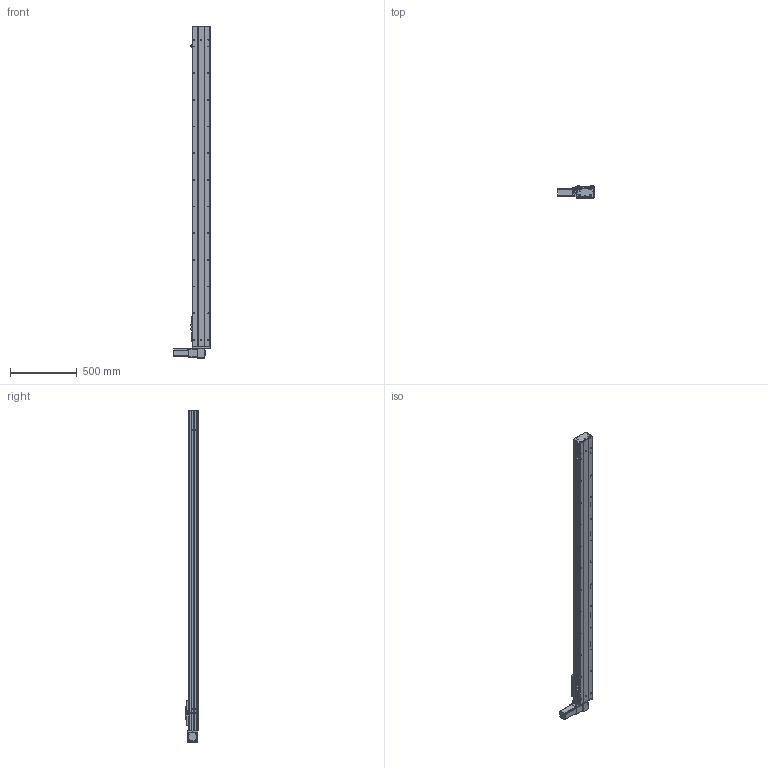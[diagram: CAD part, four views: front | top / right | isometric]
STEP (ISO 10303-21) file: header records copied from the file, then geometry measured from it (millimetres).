
FILE_DESCRIPTION (( 'STEP AP203' ), '1' );
FILE_NAME ('Y135CB-D90-S2100-BD-P400W.STEP', '2020-02-19T03:57:53', ( '微软用户' ), ( '微软中国' ), 'SwSTEP 2.0', 'SolidWorks 2017', '' );
FILE_SCHEMA (( 'CONFIG_CONTROL_DESIGN' ));
Length unit declared in the file: millimetre
Products named in the file (16): 0B-源倛裔啣; Y10B--々湍喘謫眊--666; san松下电机400不带刹车----; 0B-薊粣ん眊; 5CB --掛极耜裔啣-; Y135CB-D90-S2100-BD-P400W; C-詩湍揤踡え-陔; 135CB--詩湍-CE; Y135CB-耜裔; C-雄赽釱--; Y100-135俋离換覜ん--; 135CB---遴掛极.-; Y135C-陔俋离換覜結え-; 35CB---喘謫眊楊擘啣; 5C--俋欶; 0B-埴倛裔啣
Assembly tree (19 placements, depth 2):
  Y135CB-D90-S2100-BD-P400W
    Y135CB-耜裔
    135CB---遴掛极.-
    35CB---喘謫眊楊擘啣
    0B-埴倛裔啣
    0B-源倛裔啣
    san松下电机400不带刹车----
    5CB --掛极耜裔啣-  x2
    C-詩湍揤踡え-陔  x2
    135CB--詩湍-CE
    Y100-135俋离換覜ん--  x3
    Y135C-陔俋离換覜結え-
    5C--俋欶
    C-雄赽釱--
    Y10B--々湍喘謫眊--666
    0B-薊粣ん眊
Bounding box: 272 x 91 x 2488 mm (x, y, z)
Volume: 7243280.8 mm3; surface area: 2819323.7 mm2
Topology: 19 solids, 19 shells, 879 faces, 2374 edges, 1572 vertices
Faces by surface type: cylinder 448, plane 415, cone 16
Entity records: 27218 total; most frequent: DIRECTION 4538, CARTESIAN_POINT 4511, ORIENTED_EDGE 4224, EDGE_CURVE 2112, AXIS2_PLACEMENT_3D 1671, VERTEX_POINT 1400, LINE 1196, VECTOR 1196
